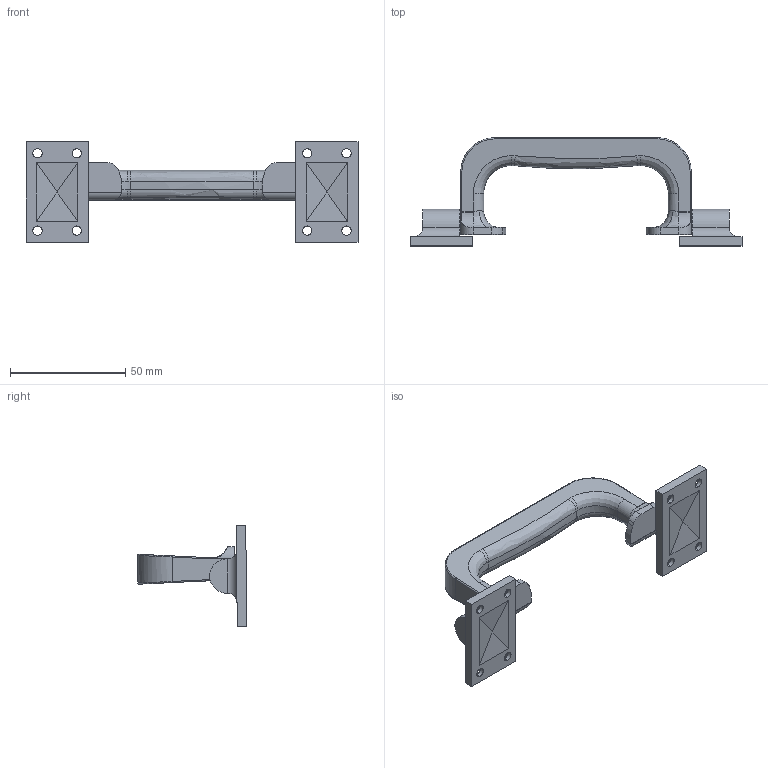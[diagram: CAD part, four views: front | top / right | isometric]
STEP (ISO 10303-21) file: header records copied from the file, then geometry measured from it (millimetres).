
FILE_DESCRIPTION (( 'STEP AP214' ), '1' );
FILE_NAME ('XG01-049-100.STEP', '2024-03-13T01:45:29', ( '' ), ( '' ), 'SwSTEP 2.0', 'SolidWorks 2020', '' );
FILE_SCHEMA (( 'AUTOMOTIVE_DESIGN' ));
Length unit declared in the file: millimetre
Products named in the file (1): XG01-049-100
Bounding box: 144 x 47.13 x 43.52 mm (x, y, z)
Volume: 35573.6 mm3; surface area: 15655 mm2
Topology: 3 solids, 3 shells, 181 faces, 429 edges, 268 vertices
Faces by surface type: cylinder 71, plane 53, bspline 26, cone 20, torus 11
Entity records: 8171 total; most frequent: CARTESIAN_POINT 2061, ORIENTED_EDGE 858, DIRECTION 844, EDGE_CURVE 429, AXIS2_PLACEMENT_3D 337, VERTEX_POINT 268, EDGE_LOOP 211, UNCERTAINTY_MEASURE_WITH_UNIT 186
